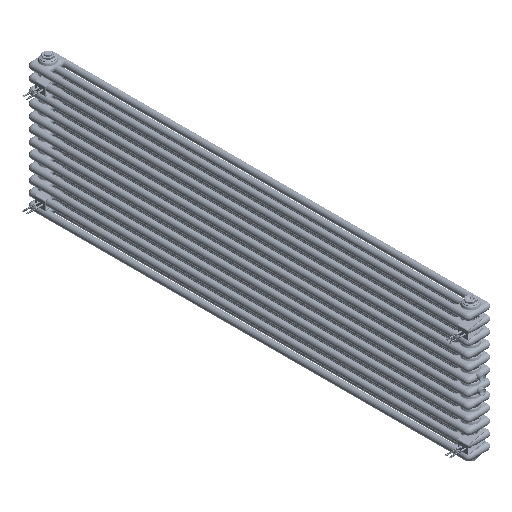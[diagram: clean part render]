
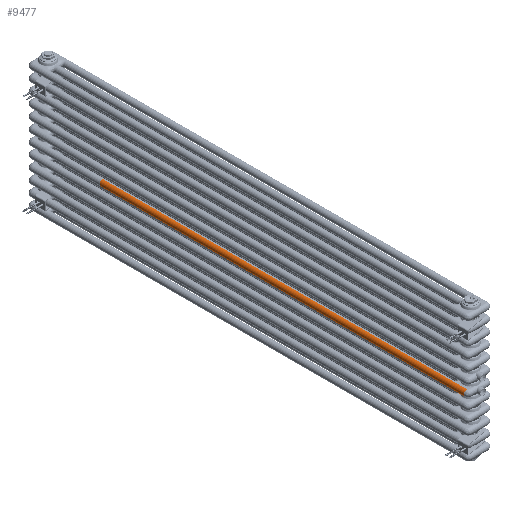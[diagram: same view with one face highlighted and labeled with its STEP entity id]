
A CAD part, isometric view. The second image highlights one B-rep face of the part: STEP entity #9477.
In plain terms, the highlighted cylindrical face has radius 12.5 mm (diameter 25 mm), a partial arc.
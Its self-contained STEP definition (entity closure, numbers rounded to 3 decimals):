
#3052=CYLINDRICAL_SURFACE('',#74197,12.5);
#4675=CIRCLE('',#74174,12.5);
#4688=CIRCLE('',#74196,12.5);
#9477=ADVANCED_FACE('',(#14660),#3052,.T.);
#14660=FACE_OUTER_BOUND('',#19335,.T.);
#19335=EDGE_LOOP('',(#31255,#31256,#31257,#31258,#31259,#31260));
#31255=ORIENTED_EDGE('',*,*,#58290,.F.);
#31256=ORIENTED_EDGE('',*,*,#58274,.T.);
#31257=ORIENTED_EDGE('',*,*,#58271,.T.);
#31258=ORIENTED_EDGE('',*,*,#58269,.T.);
#31259=ORIENTED_EDGE('',*,*,#58267,.T.);
#31260=ORIENTED_EDGE('',*,*,#58273,.T.);
#50950=VERTEX_POINT('',#128579);
#50951=VERTEX_POINT('',#128584);
#50959=VERTEX_POINT('',#129307);
#50960=VERTEX_POINT('',#129311);
#50961=VERTEX_POINT('',#129332);
#50962=VERTEX_POINT('',#129333);
#58267=EDGE_CURVE('',#50959,#50951,#68061,.T.);
#58269=EDGE_CURVE('',#50960,#50959,#4675,.T.);
#58271=EDGE_CURVE('',#50950,#50960,#68062,.T.);
#58273=EDGE_CURVE('',#50951,#50961,#68063,.T.);
#58274=EDGE_CURVE('',#50962,#50950,#68064,.T.);
#58290=EDGE_CURVE('',#50962,#50961,#4688,.T.);
#68061=LINE('',#129306,#70808);
#68062=LINE('',#129329,#70809);
#68063=LINE('',#129334,#70810);
#68064=LINE('',#129335,#70811);
#70808=VECTOR('',#83232,1.);
#70809=VECTOR('',#83241,1.);
#70810=VECTOR('',#83246,1.);
#70811=VECTOR('',#83247,1.);
#74174=AXIS2_PLACEMENT_3D('',#129310,#83237,#83238);
#74196=AXIS2_PLACEMENT_3D('',#129367,#83289,#83290);
#74197=AXIS2_PLACEMENT_3D('',#129368,#83291,#83292);
#83232=DIRECTION('',(0.,1.,0.));
#83237=DIRECTION('',(0.,1.,0.));
#83238=DIRECTION('',(0.,0.,-1.));
#83241=DIRECTION('',(0.,-1.,0.));
#83246=DIRECTION('',(0.,1.,0.));
#83247=DIRECTION('',(0.,-1.,0.));
#83289=DIRECTION('',(0.,1.,0.));
#83290=DIRECTION('',(1.,0.,0.));
#83291=DIRECTION('',(0.,1.,0.));
#83292=DIRECTION('',(0.,0.,1.));
#128579=CARTESIAN_POINT('',(12.5,78.,1385.));
#128584=CARTESIAN_POINT('',(12.5,78.,1410.));
#129306=CARTESIAN_POINT('',(12.5,15.5,1410.));
#129307=CARTESIAN_POINT('',(12.5,15.5,1410.));
#129310=CARTESIAN_POINT('',(12.5,15.5,1397.5));
#129311=CARTESIAN_POINT('',(12.5,15.5,1385.));
#129329=CARTESIAN_POINT('',(12.5,78.,1385.));
#129332=CARTESIAN_POINT('',(12.5,1501.5,1410.));
#129333=CARTESIAN_POINT('',(12.5,1501.5,1385.));
#129334=CARTESIAN_POINT('',(12.5,78.,1410.));
#129335=CARTESIAN_POINT('',(12.5,522.,1385.));
#129367=CARTESIAN_POINT('',(12.5,1501.5,1397.5));
#129368=CARTESIAN_POINT('',(12.5,15.5,1397.5));
